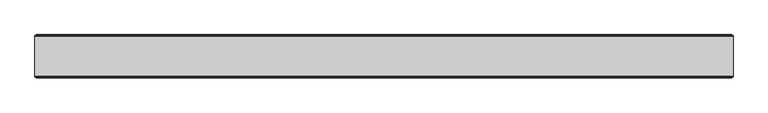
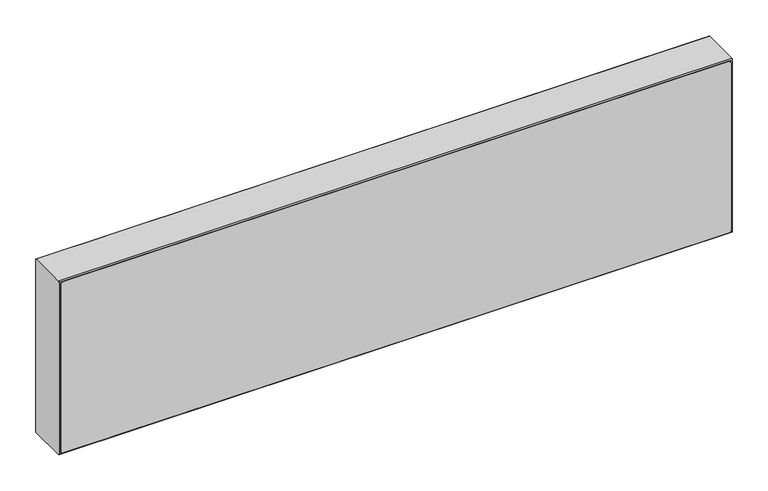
"""IFC4 building model written with IfcOpenShell, lengths in millimetres: proxy geometry, EVRA CV Д : 21-300-1100."""

import ifcopenshell
import ifcopenshell.guid

model = None  # the IFC model being written
_history = None  # IfcOwnerHistory: only IFC2X3 demands one
_inside = {}  # id of a spatial element -> (the spatial element, [elements in it])
_under = {}  # id of a project, library or spatial element -> (it, [spatial elements below it])
_declared = {}  # id of a project -> (the project, [libraries it declares])
_typed = {}  # id of a type object -> (the type object, [elements of that type])
_made_of = {}  # id of a material, layer set ... -> (it, [elements and type objects made of it])


def new_model(schema):
    """Start an empty IFC model of exactly this schema.

    Asked for "IFC4X3", IfcOpenShell would pick the latest addendum, in which some entities
    have other attributes; the version numbers below select the first issue.
    IFC2X3 requires an IfcOwnerHistory on every rooted entity: one is made here for all.
    """
    global model, _history
    if schema == "IFC4X3":
        model = ifcopenshell.file(schema_version=(4, 3, 0, 0))
    else:
        model = ifcopenshell.file(schema=schema)
    _inside.clear()
    _under.clear()
    _declared.clear()
    _typed.clear()
    _made_of.clear()
    _history = None
    if model.schema == "IFC2X3":
        org = make("IfcOrganization", Name="unknown")
        user = make(
            "IfcPersonAndOrganization",
            ThePerson=make("IfcPerson", FamilyName="unknown"),
            TheOrganization=org,
        )
        app = make(
            "IfcApplication",
            ApplicationDeveloper=org,
            Version="unknown",
            ApplicationFullName="unknown",
            ApplicationIdentifier="unknown",
        )
        _history = make(
            "IfcOwnerHistory",
            OwningUser=user,
            OwningApplication=app,
            ChangeAction="ADDED",
            CreationDate=0,
        )
    return model


def make(cls, **values):
    """One entity of the class cls with the attributes given. An attribute that is None is left unset."""
    return model.create_entity(
        cls, **{name: value for name, value in values.items() if value is not None}
    )


def rooted(cls, **values):
    """An entity with a GlobalId (a new one), such as an element, a storey or a relation."""
    return make(cls, GlobalId=ifcopenshell.guid.new(), OwnerHistory=_history, **values)


def si_unit(unit_type, name, prefix=None):
    """IfcSIUnit, for example si_unit("LENGTHUNIT", "METRE", prefix="MILLI")."""
    return make("IfcSIUnit", UnitType=unit_type, Prefix=prefix, Name=name)


def assignment(units):
    """IfcUnitAssignment: the units of a project."""
    return None if units is None else make("IfcUnitAssignment", Units=units)


def point(xyz):
    """IfcCartesianPoint."""
    return None if xyz is None else make("IfcCartesianPoint", Coordinates=xyz)


def direction(xyz):
    """IfcDirection."""
    return None if xyz is None else make("IfcDirection", DirectionRatios=xyz)


def frame(location, z_axis=None, x_axis=None):
    """IfcAxis2Placement3D, a coordinate frame: its origin and axes. An axis left out is left unset."""
    return make(
        "IfcAxis2Placement3D",
        Location=point(location),
        Axis=direction(z_axis),
        RefDirection=direction(x_axis),
    )


def frame_2d(location, x_axis=None):
    """IfcAxis2Placement2D, a coordinate frame in the plane: its origin and x axis."""
    return make(
        "IfcAxis2Placement2D", Location=point(location), RefDirection=direction(x_axis)
    )


def origin():
    """The frame at (0, 0, 0) with its axes left unset."""
    return frame((0.0, 0.0, 0.0))


def place(relative_to, where):
    """IfcLocalPlacement: puts the frame where relative to a parent placement (None: the world)."""
    return make(
        "IfcLocalPlacement", PlacementRelTo=relative_to, RelativePlacement=where
    )


def context(
    kind, dimensions, precision=None, world=None, true_north=None, identifier=None
):
    """IfcGeometricRepresentationContext, for example the 3D "Model" context."""
    return make(
        "IfcGeometricRepresentationContext",
        ContextIdentifier=identifier,
        ContextType=kind,
        CoordinateSpaceDimension=dimensions,
        Precision=precision,
        WorldCoordinateSystem=world,
        TrueNorth=true_north,
    )


def project(units=None, contexts=None):
    """IfcProject with its units and contexts."""
    return rooted(
        "IfcProject",
        Name="project",
        RepresentationContexts=contexts,
        UnitsInContext=assignment(units),
    )


def spatial(cls, under=None, at=None, **own):
    """A site, building, storey or space (cls), placed at a placement, below another one or the project."""
    s = rooted(cls, ObjectPlacement=at, **own)
    if under is not None:
        _under.setdefault(under.id(), (under, []))[1].append(s)
    return s


def polyline(points):
    """IfcPolyline through the points."""
    return make("IfcPolyline", Points=[point(p) for p in points])


def circle_curve(where, radius):
    """IfcCircle in the frame where."""
    return make("IfcCircle", Position=where, Radius=radius)


def trimmed(basis, trim1, trim2, sense, master):
    """IfcTrimmedCurve: the piece of a basis curve between two trims."""
    return make(
        "IfcTrimmedCurve",
        BasisCurve=basis,
        Trim1=trim1,
        Trim2=trim2,
        SenseAgreement=sense,
        MasterRepresentation=master,
    )


def segment(curve, same_sense, transition):
    """IfcCompositeCurveSegment."""
    return make(
        "IfcCompositeCurveSegment",
        Transition=transition,
        SameSense=same_sense,
        ParentCurve=curve,
    )


def composite_curve(segments, self_intersect=None):
    """IfcCompositeCurve: segments joined end to end."""
    return make("IfcCompositeCurve", Segments=segments, SelfIntersect=self_intersect)


def outline(outer, holes=None, kind="AREA"):
    """IfcArbitraryClosedProfileDef: a profile drawn as a closed curve; with holes, ...WithVoids."""
    if holes is None:
        return make("IfcArbitraryClosedProfileDef", ProfileType=kind, OuterCurve=outer)
    return make(
        "IfcArbitraryProfileDefWithVoids",
        ProfileType=kind,
        OuterCurve=outer,
        InnerCurves=holes,
    )


def extrude(swept, where, along, depth):
    """IfcExtrudedAreaSolid: the profile swept, set in the frame where, extruded along a direction by depth."""
    return make(
        "IfcExtrudedAreaSolid",
        SweptArea=swept,
        Position=where,
        ExtrudedDirection=direction(along),
        Depth=depth,
    )


def shape(context_of_items, identifier, shape_type, items):
    """IfcShapeRepresentation: the items that make up one representation, for example the "Body"."""
    return make(
        "IfcShapeRepresentation",
        ContextOfItems=context_of_items,
        RepresentationIdentifier=identifier,
        RepresentationType=shape_type,
        Items=items,
    )


def source(mapping_origin, context_of_items, identifier, shape_type, items):
    """IfcRepresentationMap: a shape defined once, which mapped items show again and again."""
    return make(
        "IfcRepresentationMap",
        MappingOrigin=mapping_origin,
        MappedRepresentation=shape(context_of_items, identifier, shape_type, items),
    )


def transform(
    local_origin,
    x_axis=None,
    y_axis=None,
    z_axis=None,
    scale=None,
    scale2=None,
    scale3=None,
    uniform=True,
):
    """IfcCartesianTransformationOperator3D, or its non-uniform kind. x_axis, y_axis, z_axis: its Axis1, 2, 3."""
    if uniform:
        return make(
            "IfcCartesianTransformationOperator3D",
            Axis1=direction(x_axis),
            Axis2=direction(y_axis),
            LocalOrigin=point(local_origin),
            Scale=scale,
            Axis3=direction(z_axis),
        )
    return make(
        "IfcCartesianTransformationOperator3DnonUniform",
        Axis1=direction(x_axis),
        Axis2=direction(y_axis),
        LocalOrigin=point(local_origin),
        Scale=scale,
        Axis3=direction(z_axis),
        Scale2=scale2,
        Scale3=scale3,
    )


def mapped(mapping_source, mapping_target):
    """IfcMappedItem: shows the shape of a source again, moved by a transform."""
    return make(
        "IfcMappedItem", MappingSource=mapping_source, MappingTarget=mapping_target
    )


def made_of(thing, what):
    """Note that an element or type object is made of a material, layer set ...; save() writes the relation."""
    if what is not None:
        _made_of.setdefault(what.id(), (what, []))[1].append(thing)
    return thing


def element(
    cls,
    number,
    at=None,
    inside=None,
    cuts=None,
    type_object=None,
    material=None,
    context=None,
    identifier="Body",
    shape_type=None,
    held_by="IfcProductDefinitionShape",
    body=None,
    shapes=None,
    **own,
):
    """One element of the class cls, such as IfcWall. Its Tag is "e" and its number.

    at: its placement. inside: the storey or other place that contains it. cuts: it is an
    opening in that element (IfcRelVoidsElement). A single representation is given by context,
    identifier, shape_type and body (its items); several are given by shapes. held_by: the class
    of the entity that holds the representations. save() writes the other relations.
    """
    e = rooted(cls, Tag="e%d" % number, ObjectPlacement=at, **own)
    if body is not None:
        shapes = [shape(context, identifier, shape_type, body)]
    if shapes is not None:
        e.Representation = make(held_by, Representations=shapes)
    if inside is not None:
        _inside.setdefault(inside.id(), (inside, []))[1].append(e)
    if cuts is not None:
        rooted(
            "IfcRelVoidsElement", RelatingBuildingElement=cuts, RelatedOpeningElement=e
        )
    if type_object is not None:
        _typed.setdefault(type_object.id(), (type_object, []))[1].append(e)
    return made_of(e, material)


def aggregate(whole, parts):
    """IfcRelAggregates: a whole, such as a stair, and the parts it consists of."""
    return rooted("IfcRelAggregates", RelatingObject=whole, RelatedObjects=parts)


def save(model, path):
    """Write the relations noted so far, then the file.

    IfcRelAggregates (storeys below a building ...), IfcRelContainedInSpatialStructure (elements
    in a storey), IfcRelDefinesByType, IfcRelAssociatesMaterial and IfcRelDeclares: one each for
    every whole, place, type object, material and project.
    """
    for whole, parts in _under.values():
        aggregate(whole, parts)
    for where, things in _inside.values():
        rooted(
            "IfcRelContainedInSpatialStructure",
            RelatedElements=things,
            RelatingStructure=where,
        )
    for kind, things in _typed.values():
        rooted("IfcRelDefinesByType", RelatedObjects=things, RelatingType=kind)
    for what, things in _made_of.values():
        rooted("IfcRelAssociatesMaterial", RelatedObjects=things, RelatingMaterial=what)
    for by, libraries in _declared.values():
        rooted("IfcRelDeclares", RelatingContext=by, RelatedDefinitions=libraries)
    model.write(path)


def mechanical_equipment_6fadb864(model_context):
    return source(origin(), model_context, "Body", "SweptSolid", [
        extrude(outline(composite_curve([segment(polyline([(398.0, 743.0), (398.0, -343.0)]), True, "CONTINUOUS"), segment(trimmed(circle_curve(frame_2d((393.0, -343.0)), 5.0), [point((398.0, -343.0))], [point((393.0, -348.0))], False, "CARTESIAN"), True, "CONTINUOUS"), segment(polyline([(393.0, -348.0), (107.0, -348.0)]), True, "CONTINUOUS"), segment(trimmed(circle_curve(frame_2d((107.0, -343.0)), 5.0), [point((107.0, -348.0))], [point((102.0, -343.0))], False, "CARTESIAN"), True, "CONTINUOUS"), segment(polyline([(102.0, -343.0), (102.0, 743.0)]), True, "CONTINUOUS"), segment(trimmed(circle_curve(frame_2d((107.0, 743.0)), 5.0), [point((102.0, 743.0))], [point((107.0, 748.0))], False, "CARTESIAN"), True, "CONTINUOUS"), segment(polyline([(107.0, 748.0), (393.0, 748.0)]), True, "CONTINUOUS"), segment(trimmed(circle_curve(frame_2d((393.0, 743.0)), 5.0), [point((393.0, 748.0))], [point((398.0, 743.0))], False, "CARTESIAN"), True, "CONTINUOUS")], self_intersect=False)), frame((0.0, 11.4631102, 0.0), z_axis=(0.0, 1.0, 0.0), x_axis=(0.0, 0.0, 1.0)), (0.0, 0.0, 1.0), 1.0),
        extrude(outline(composite_curve([segment(polyline([(398.0, 743.0), (398.0, -343.0)]), True, "CONTINUOUS"), segment(trimmed(circle_curve(frame_2d((393.0, -343.0)), 5.0), [point((398.0, -343.0))], [point((393.0, -348.0))], False, "CARTESIAN"), True, "CONTINUOUS"), segment(polyline([(393.0, -348.0), (107.0, -348.0)]), True, "CONTINUOUS"), segment(trimmed(circle_curve(frame_2d((107.0, -343.0)), 5.0), [point((107.0, -348.0))], [point((102.0, -343.0))], False, "CARTESIAN"), True, "CONTINUOUS"), segment(polyline([(102.0, -343.0), (102.0, 743.0)]), True, "CONTINUOUS"), segment(trimmed(circle_curve(frame_2d((107.0, 743.0)), 5.0), [point((102.0, 743.0))], [point((107.0, 748.0))], False, "CARTESIAN"), True, "CONTINUOUS"), segment(polyline([(107.0, 748.0), (393.0, 748.0)]), True, "CONTINUOUS"), segment(trimmed(circle_curve(frame_2d((393.0, 743.0)), 5.0), [point((393.0, 748.0))], [point((398.0, 743.0))], False, "CARTESIAN"), True, "CONTINUOUS")], self_intersect=False)), frame((0.0, -55.5368898, 0.0), z_axis=(0.0, 1.0, 0.0), x_axis=(0.0, 0.0, 1.0)), (0.0, 0.0, 1.0), 1.0),
        extrude(outline(composite_curve([segment(trimmed(circle_curve(frame_2d((9.4631102, 398.0)), 2.0), [point((9.4631102, 400.0))], [point((11.4631102, 398.0))], False, "CARTESIAN"), True, "CONTINUOUS"), segment(polyline([(11.4631102, 398.0), (11.4631102, 102.0)]), True, "CONTINUOUS"), segment(trimmed(circle_curve(frame_2d((9.4631102, 102.0)), 2.0), [point((11.4631102, 102.0))], [point((9.4631102, 100.0))], False, "CARTESIAN"), True, "CONTINUOUS"), segment(polyline([(9.4631102, 100.0), (-52.5368898, 100.0)]), True, "CONTINUOUS"), segment(trimmed(circle_curve(frame_2d((-52.5368898, 102.0)), 2.0), [point((-52.5368898, 100.0))], [point((-54.5368898, 102.0))], False, "CARTESIAN"), True, "CONTINUOUS"), segment(polyline([(-54.5368898, 102.0), (-54.5368898, 398.0)]), True, "CONTINUOUS"), segment(trimmed(circle_curve(frame_2d((-52.5368898, 398.0)), 2.0), [point((-54.5368898, 398.0))], [point((-52.5368898, 400.0))], False, "CARTESIAN"), True, "CONTINUOUS"), segment(polyline([(-52.5368898, 400.0), (9.4631102, 400.0)]), True, "CONTINUOUS")], self_intersect=False)), frame((-350.0, 0.0, 0.0), z_axis=(1.0, 0.0, 0.0), x_axis=(0.0, 1.0, 0.0)), (0.0, 0.0, 1.0), 1100.0),
    ])


if __name__ == "__main__":
    model = new_model("IFC4")
    model_context = context("Model", 3, world=origin())
    ifc_project = project(units=[si_unit("LENGTHUNIT", "METRE", prefix="MILLI")], contexts=[model_context])
    site = spatial("IfcSite", under=ifc_project)
    building = spatial("IfcBuilding", under=site)
    placement = place(None, origin())
    mechanical_equipment_shape = mechanical_equipment_6fadb864(model_context)
    element("IfcBuildingElementProxy", 1, Name="EVRA CV Д : 21-300-1100", ObjectType="EVRA CV Д : 21-300-1100", at=placement, inside=building, context=model_context, shape_type="MappedRepresentation", body=[
        mapped(mechanical_equipment_shape, transform((0.0, 0.0, 0.0), x_axis=(1.0, 0.0, 0.0), y_axis=(0.0, 1.0, 0.0), z_axis=(0.0, 0.0, 1.0))),
    ])
    save(model, "model.ifc")
